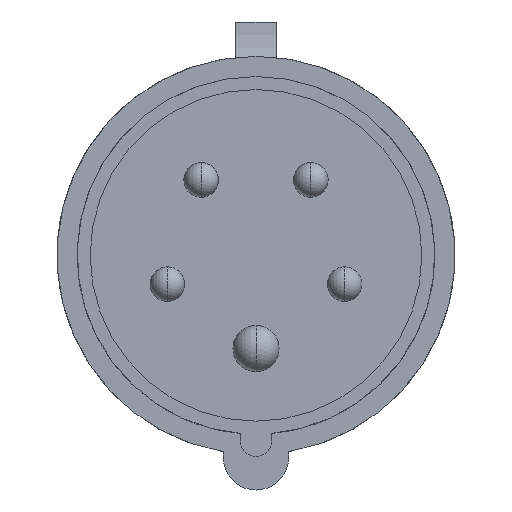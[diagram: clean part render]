
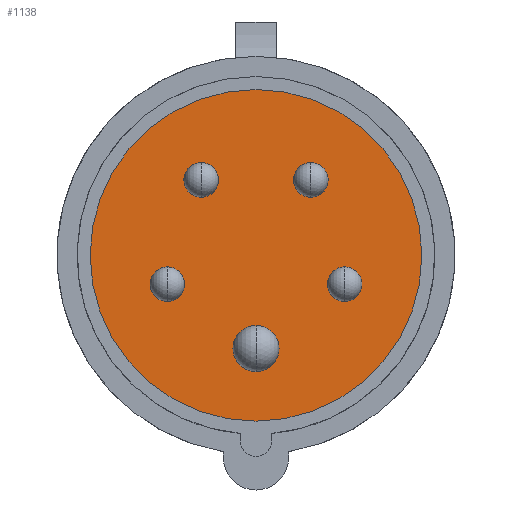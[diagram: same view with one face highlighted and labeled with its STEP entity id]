
A CAD part, front view. The second image highlights one B-rep face of the part: STEP entity #1138.
In plain terms, the highlighted planar face has unit normal (0, -1, 0).
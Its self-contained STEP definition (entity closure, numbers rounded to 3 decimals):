
#3 = CIRCLE ( 'NONE', #814, 28.75 ) ;
#11 = VERTEX_POINT ( 'NONE', #510 ) ;
#14 = EDGE_CURVE ( 'NONE', #1591, #1282, #529, .T. ) ;
#23 = DIRECTION ( 'NONE',  ( 0., 0., -1. ) ) ;
#39 = DIRECTION ( 'NONE',  ( 0., 0., -1. ) ) ;
#45 = DIRECTION ( 'NONE',  ( 0., -1., 0. ) ) ;
#67 = VERTEX_POINT ( 'NONE', #1390 ) ;
#69 = EDGE_CURVE ( 'NONE', #1425, #1339, #340, .T. ) ;
#74 = ORIENTED_EDGE ( 'NONE', *, *, #1168, .F. ) ;
#88 = VERTEX_POINT ( 'NONE', #879 ) ;
#91 = CARTESIAN_POINT ( 'NONE',  ( -15.371, 43.5, -1.994 ) ) ;
#102 = CIRCLE ( 'NONE', #1584, 4. ) ;
#108 = EDGE_CURVE ( 'NONE', #1282, #1591, #1542, .T. ) ;
#127 = DIRECTION ( 'NONE',  ( 0., -1., 0. ) ) ;
#129 = CARTESIAN_POINT ( 'NONE',  ( 0., 43.5, -31. ) ) ;
#130 = CARTESIAN_POINT ( 'NONE',  ( 15.371, 43.5, -4.994 ) ) ;
#132 = DIRECTION ( 'NONE',  ( 0., 0., -1. ) ) ;
#137 = DIRECTION ( 'NONE',  ( 0., -1., 0. ) ) ;
#138 = CARTESIAN_POINT ( 'NONE',  ( 15.371, 43.5, -7.994 ) ) ;
#140 = DIRECTION ( 'NONE',  ( 0., 0., -1. ) ) ;
#148 = EDGE_LOOP ( 'NONE', ( #528, #1201 ) ) ;
#150 = ORIENTED_EDGE ( 'NONE', *, *, #108, .F. ) ;
#151 = EDGE_CURVE ( 'NONE', #67, #1374, #102, .T. ) ;
#162 = CARTESIAN_POINT ( 'NONE',  ( -9.5, 43.5, 10.076 ) ) ;
#200 = EDGE_CURVE ( 'NONE', #1374, #67, #1184, .T. ) ;
#226 = EDGE_LOOP ( 'NONE', ( #1197, #150 ) ) ;
#244 = AXIS2_PLACEMENT_3D ( 'NONE', #130, #254, #509 ) ;
#252 = AXIS2_PLACEMENT_3D ( 'NONE', #129, #637, #508 ) ;
#254 = DIRECTION ( 'NONE',  ( 0., -1., 0. ) ) ;
#265 = EDGE_CURVE ( 'NONE', #88, #11, #1056, .T. ) ;
#270 = PLANE ( 'NONE',  #252 ) ;
#279 = CARTESIAN_POINT ( 'NONE',  ( 0., 43.5, 0. ) ) ;
#331 = FACE_BOUND ( 'NONE', #753, .T. ) ;
#332 = FACE_BOUND ( 'NONE', #148, .T. ) ;
#337 = AXIS2_PLACEMENT_3D ( 'NONE', #1041, #1032, #140 ) ;
#339 = EDGE_LOOP ( 'NONE', ( #442, #384 ) ) ;
#340 = CIRCLE ( 'NONE', #786, 3. ) ;
#370 = CIRCLE ( 'NONE', #728, 3. ) ;
#383 = AXIS2_PLACEMENT_3D ( 'NONE', #911, #1044, #1047 ) ;
#384 = ORIENTED_EDGE ( 'NONE', *, *, #1228, .F. ) ;
#411 = DIRECTION ( 'NONE',  ( 0., 0., -1. ) ) ;
#416 = CARTESIAN_POINT ( 'NONE',  ( 0., 43.5, -28.75 ) ) ;
#422 = CIRCLE ( 'NONE', #244, 3. ) ;
#440 = CIRCLE ( 'NONE', #383, 3. ) ;
#442 = ORIENTED_EDGE ( 'NONE', *, *, #1630, .F. ) ;
#481 = ORIENTED_EDGE ( 'NONE', *, *, #763, .F. ) ;
#504 = VERTEX_POINT ( 'NONE', #1108 ) ;
#508 = DIRECTION ( 'NONE',  ( 0., 0., -1. ) ) ;
#509 = DIRECTION ( 'NONE',  ( 0., 0., -1. ) ) ;
#510 = CARTESIAN_POINT ( 'NONE',  ( 9.5, 43.5, 10.076 ) ) ;
#514 = AXIS2_PLACEMENT_3D ( 'NONE', #1311, #656, #675 ) ;
#528 = ORIENTED_EDGE ( 'NONE', *, *, #151, .F. ) ;
#529 = CIRCLE ( 'NONE', #1128, 3. ) ;
#539 = DIRECTION ( 'NONE',  ( 0., 1., 0. ) ) ;
#578 = EDGE_CURVE ( 'NONE', #504, #658, #422, .T. ) ;
#585 = ORIENTED_EDGE ( 'NONE', *, *, #653, .F. ) ;
#590 = AXIS2_PLACEMENT_3D ( 'NONE', #804, #800, #1600 ) ;
#593 = CARTESIAN_POINT ( 'NONE',  ( -9.5, 43.5, 16.076 ) ) ;
#637 = DIRECTION ( 'NONE',  ( 0., -1., 0. ) ) ;
#650 = DIRECTION ( 'NONE',  ( 0., -1., 0. ) ) ;
#651 = ORIENTED_EDGE ( 'NONE', *, *, #69, .F. ) ;
#653 = EDGE_CURVE ( 'NONE', #658, #504, #1055, .T. ) ;
#656 = DIRECTION ( 'NONE',  ( 0., -1., 0. ) ) ;
#658 = VERTEX_POINT ( 'NONE', #138 ) ;
#675 = DIRECTION ( 'NONE',  ( 0., 0., -1. ) ) ;
#679 = CIRCLE ( 'NONE', #337, 28.75 ) ;
#728 = AXIS2_PLACEMENT_3D ( 'NONE', #877, #137, #23 ) ;
#752 = CARTESIAN_POINT ( 'NONE',  ( -15.371, 43.5, -4.994 ) ) ;
#753 = EDGE_LOOP ( 'NONE', ( #825, #585 ) ) ;
#763 = EDGE_CURVE ( 'NONE', #11, #88, #440, .T. ) ;
#786 = AXIS2_PLACEMENT_3D ( 'NONE', #752, #650, #1525 ) ;
#800 = DIRECTION ( 'NONE',  ( 0., -1., 0. ) ) ;
#804 = CARTESIAN_POINT ( 'NONE',  ( 9.5, 43.5, 13.076 ) ) ;
#814 = AXIS2_PLACEMENT_3D ( 'NONE', #279, #539, #39 ) ;
#825 = ORIENTED_EDGE ( 'NONE', *, *, #578, .F. ) ;
#855 = CARTESIAN_POINT ( 'NONE',  ( 0., 43.5, -20.162 ) ) ;
#872 = CARTESIAN_POINT ( 'NONE',  ( -15.371, 43.5, -7.994 ) ) ;
#877 = CARTESIAN_POINT ( 'NONE',  ( -15.371, 43.5, -4.994 ) ) ;
#878 = CARTESIAN_POINT ( 'NONE',  ( 15.371, 43.5, -4.994 ) ) ;
#879 = CARTESIAN_POINT ( 'NONE',  ( 9.5, 43.5, 16.076 ) ) ;
#889 = DIRECTION ( 'NONE',  ( 0., 0., -1. ) ) ;
#902 = CARTESIAN_POINT ( 'NONE',  ( 0., 43.5, -16.162 ) ) ;
#911 = CARTESIAN_POINT ( 'NONE',  ( 9.5, 43.5, 13.076 ) ) ;
#1017 = VERTEX_POINT ( 'NONE', #416 ) ;
#1030 = DIRECTION ( 'NONE',  ( 0., 0., -1. ) ) ;
#1032 = DIRECTION ( 'NONE',  ( 0., 1., 0. ) ) ;
#1041 = CARTESIAN_POINT ( 'NONE',  ( 0., 43.5, 0. ) ) ;
#1044 = DIRECTION ( 'NONE',  ( 0., -1., 0. ) ) ;
#1047 = DIRECTION ( 'NONE',  ( 0., 0., -1. ) ) ;
#1055 = CIRCLE ( 'NONE', #1307, 3. ) ;
#1056 = CIRCLE ( 'NONE', #590, 3. ) ;
#1108 = CARTESIAN_POINT ( 'NONE',  ( 15.371, 43.5, -1.994 ) ) ;
#1128 = AXIS2_PLACEMENT_3D ( 'NONE', #1135, #127, #132 ) ;
#1135 = CARTESIAN_POINT ( 'NONE',  ( -9.5, 43.5, 13.076 ) ) ;
#1138 = ADVANCED_FACE ( 'NONE', ( #332, #331, #1229, #1615, #1269, #1368 ), #270, .T. ) ;
#1148 = DIRECTION ( 'NONE',  ( 0., -1., 0. ) ) ;
#1168 = EDGE_CURVE ( 'NONE', #1339, #1425, #370, .T. ) ;
#1174 = CARTESIAN_POINT ( 'NONE',  ( -9.5, 43.5, 13.076 ) ) ;
#1184 = CIRCLE ( 'NONE', #514, 4. ) ;
#1197 = ORIENTED_EDGE ( 'NONE', *, *, #14, .F. ) ;
#1201 = ORIENTED_EDGE ( 'NONE', *, *, #200, .F. ) ;
#1228 = EDGE_CURVE ( 'NONE', #1565, #1017, #3, .T. ) ;
#1229 = FACE_BOUND ( 'NONE', #1457, .T. ) ;
#1269 = FACE_BOUND ( 'NONE', #226, .T. ) ;
#1282 = VERTEX_POINT ( 'NONE', #162 ) ;
#1290 = DIRECTION ( 'NONE',  ( 0., -1., 0. ) ) ;
#1307 = AXIS2_PLACEMENT_3D ( 'NONE', #878, #1148, #889 ) ;
#1310 = EDGE_LOOP ( 'NONE', ( #1326, #481 ) ) ;
#1311 = CARTESIAN_POINT ( 'NONE',  ( 0., 43.5, -16.162 ) ) ;
#1326 = ORIENTED_EDGE ( 'NONE', *, *, #265, .F. ) ;
#1339 = VERTEX_POINT ( 'NONE', #91 ) ;
#1368 = FACE_OUTER_BOUND ( 'NONE', #339, .T. ) ;
#1374 = VERTEX_POINT ( 'NONE', #855 ) ;
#1385 = AXIS2_PLACEMENT_3D ( 'NONE', #1174, #1290, #1030 ) ;
#1390 = CARTESIAN_POINT ( 'NONE',  ( 0., 43.5, -12.162 ) ) ;
#1425 = VERTEX_POINT ( 'NONE', #872 ) ;
#1457 = EDGE_LOOP ( 'NONE', ( #74, #651 ) ) ;
#1525 = DIRECTION ( 'NONE',  ( 0., 0., -1. ) ) ;
#1542 = CIRCLE ( 'NONE', #1385, 3. ) ;
#1565 = VERTEX_POINT ( 'NONE', #1618 ) ;
#1584 = AXIS2_PLACEMENT_3D ( 'NONE', #902, #45, #411 ) ;
#1591 = VERTEX_POINT ( 'NONE', #593 ) ;
#1600 = DIRECTION ( 'NONE',  ( 0., 0., -1. ) ) ;
#1615 = FACE_BOUND ( 'NONE', #1310, .T. ) ;
#1618 = CARTESIAN_POINT ( 'NONE',  ( 0., 43.5, 28.75 ) ) ;
#1630 = EDGE_CURVE ( 'NONE', #1017, #1565, #679, .T. ) ;
